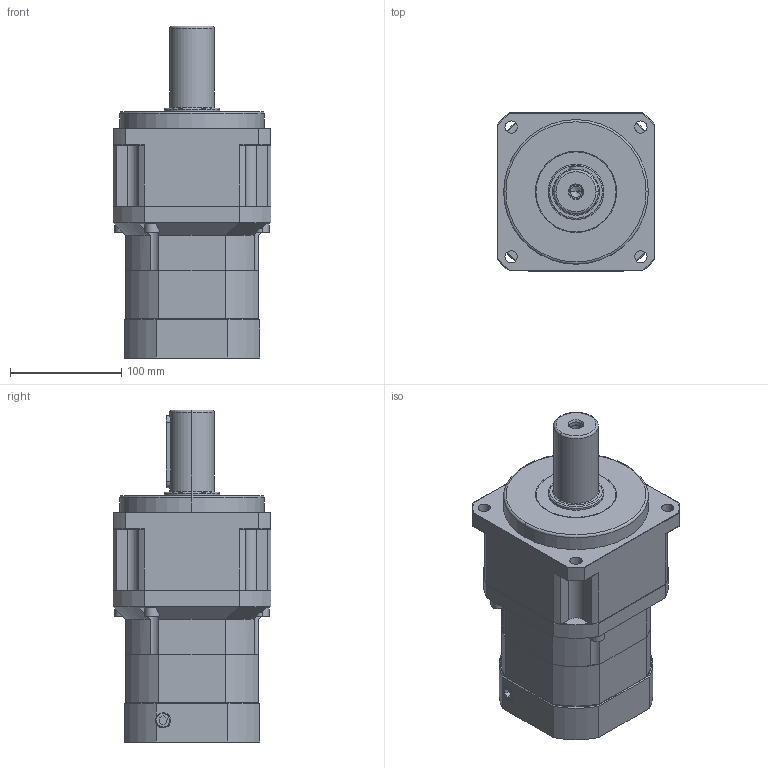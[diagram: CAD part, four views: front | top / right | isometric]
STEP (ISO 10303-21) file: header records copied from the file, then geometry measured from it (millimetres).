
FILE_DESCRIPTION (( 'STEP AP203' ), '1' );
FILE_NAME ('SB142-2-95M8.STEP', '2011-07-11T08:51:25', ( '1' ), ( '' ), 'SwSTEP 2.0', 'SolidWorks 2011', '' );
FILE_SCHEMA (( 'CONFIG_CONTROL_DESIGN' ));
Length unit declared in the file: millimetre
Products named in the file (1): SB142-2-95M8
Bounding box: 142 x 142 x 298.5 mm (x, y, z)
Volume: 3059026.2 mm3; surface area: 330633.7 mm2
Topology: 21 solids, 21 shells, 770 faces, 1808 edges, 1108 vertices
Faces by surface type: plane 346, cylinder 235, cone 140, torus 32, bspline 17
Entity records: 22969 total; most frequent: CARTESIAN_POINT 5136, DIRECTION 3841, ORIENTED_EDGE 3548, EDGE_CURVE 1774, AXIS2_PLACEMENT_3D 1445, VERTEX_POINT 1108, LINE 951, VECTOR 951
